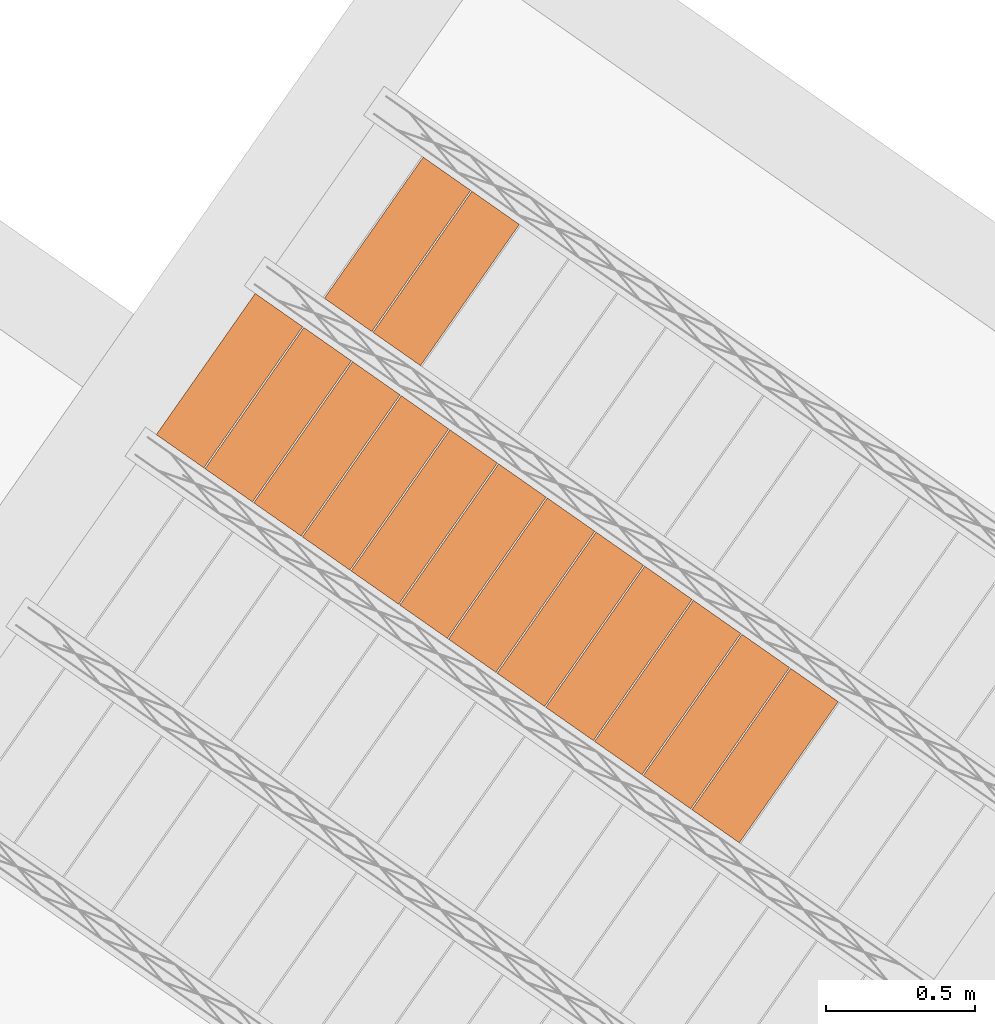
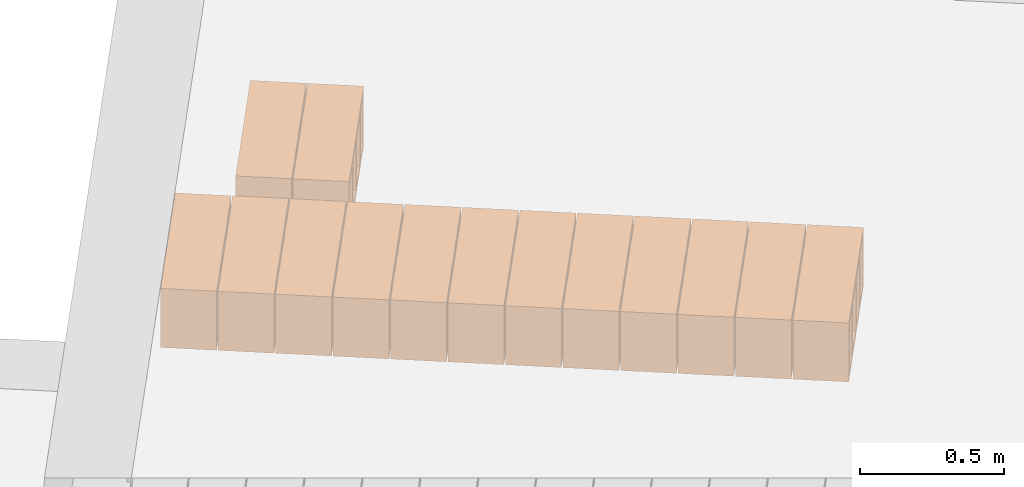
# One storey, part 44 of 46: 14 proxies.
"""IFC2X3 building model written with IfcOpenShell, lengths in metres."""

from ifc_helpers import new_model, entity, si_unit, converted_unit, derived_unit, direction, frame, origin, place, context, subcontext, project, spatial, polyline, outline, extrude, type_object, element, save


model = new_model("IFC2X3")

# Units and contexts
model_context = context("Model", 3, precision=1e-05, world=origin(), true_north=direction((6.123031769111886e-17, 1.0)))
body_context = subcontext(model_context, "Body", "Model", "MODEL_VIEW")
ifc_project = project(units=[si_unit("LENGTHUNIT", "METRE"), si_unit("AREAUNIT", "SQUARE_METRE"), si_unit("VOLUMEUNIT", "CUBIC_METRE"), converted_unit("PLANEANGLEUNIT", "DEGREE", entity("IfcPlaneAngleMeasure", 0.017453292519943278), si_unit("PLANEANGLEUNIT", "RADIAN"), dimensions=[0, 0, 0, 0, 0, 0, 0]), si_unit("MASSUNIT", "GRAM", prefix="KILO"), derived_unit("MASSDENSITYUNIT", [(si_unit("MASSUNIT", "GRAM", prefix="KILO"), 1), (si_unit("LENGTHUNIT", "METRE"), -3)]), derived_unit("IONCONCENTRATIONUNIT", [(si_unit("MASSUNIT", "GRAM", prefix="KILO"), 1), (si_unit("LENGTHUNIT", "METRE"), -3)]), derived_unit("MOMENTOFINERTIAUNIT", [(si_unit("LENGTHUNIT", "METRE"), 4)]), si_unit("TIMEUNIT", "SECOND"), si_unit("FREQUENCYUNIT", "HERTZ"), si_unit("THERMODYNAMICTEMPERATUREUNIT", "DEGREE_CELSIUS"), derived_unit("THERMALTRANSMITTANCEUNIT", [(si_unit("MASSUNIT", "GRAM", prefix="KILO"), 1), (si_unit("THERMODYNAMICTEMPERATUREUNIT", "KELVIN"), -1), (si_unit("TIMEUNIT", "SECOND"), -3)]), derived_unit("THERMALCONDUCTANCEUNIT", [(si_unit("MASSUNIT", "GRAM", prefix="KILO"), 1), (si_unit("THERMODYNAMICTEMPERATUREUNIT", "KELVIN"), -1), (si_unit("TIMEUNIT", "SECOND"), -3), (si_unit("LENGTHUNIT", "METRE"), 1)]), derived_unit("VOLUMETRICFLOWRATEUNIT", [(si_unit("LENGTHUNIT", "METRE", prefix="DECI"), 3), (si_unit("TIMEUNIT", "SECOND"), -1)]), derived_unit("MASSFLOWRATEUNIT", [(si_unit("MASSUNIT", "GRAM", prefix="KILO"), 1), (si_unit("TIMEUNIT", "SECOND"), -1)]), derived_unit("ROTATIONALFREQUENCYUNIT", [(si_unit("TIMEUNIT", "SECOND"), -1)]), si_unit("ELECTRICCURRENTUNIT", "AMPERE"), si_unit("ELECTRICVOLTAGEUNIT", "VOLT"), si_unit("POWERUNIT", "WATT"), si_unit("FORCEUNIT", "NEWTON", prefix="KILO"), si_unit("ILLUMINANCEUNIT", "LUX"), si_unit("LUMINOUSFLUXUNIT", "LUMEN"), si_unit("LUMINOUSINTENSITYUNIT", "CANDELA"), si_unit("ENERGYUNIT", "JOULE"), derived_unit("USERDEFINED", [(si_unit("MASSUNIT", "GRAM", prefix="KILO"), -1), (si_unit("LENGTHUNIT", "METRE"), -2), (si_unit("TIMEUNIT", "SECOND"), 3), (si_unit("LUMINOUSFLUXUNIT", "LUMEN"), 1)]), derived_unit("USERDEFINED", [(si_unit("MASSUNIT", "GRAM", prefix="KILO"), 1), (si_unit("TIMEUNIT", "SECOND"), -3), (si_unit("LENGTHUNIT", "METRE"), 3), (si_unit("ELECTRICCURRENTUNIT", "AMPERE"), -2)]), derived_unit("SOUNDPOWERUNIT", [(si_unit("MASSUNIT", "GRAM", prefix="KILO"), 1), (si_unit("TIMEUNIT", "SECOND"), -3), (si_unit("LENGTHUNIT", "METRE"), 2)]), derived_unit("SOUNDPRESSUREUNIT", [(si_unit("MASSUNIT", "GRAM", prefix="KILO"), 1), (si_unit("LENGTHUNIT", "METRE"), -1), (si_unit("TIMEUNIT", "SECOND"), -2)]), derived_unit("LINEARVELOCITYUNIT", [(si_unit("LENGTHUNIT", "METRE"), 1), (si_unit("TIMEUNIT", "SECOND"), -1)]), si_unit("PRESSUREUNIT", "PASCAL"), derived_unit("USERDEFINED", [(si_unit("MASSUNIT", "GRAM", prefix="KILO"), 1), (si_unit("LENGTHUNIT", "METRE"), -2), (si_unit("TIMEUNIT", "SECOND"), -2)]), derived_unit("LINEARFORCEUNIT", [(si_unit("MASSUNIT", "GRAM", prefix="KILO"), 1), (si_unit("TIMEUNIT", "SECOND"), -2)]), derived_unit("PLANARFORCEUNIT", [(si_unit("MASSUNIT", "GRAM", prefix="KILO"), 1), (si_unit("LENGTHUNIT", "METRE"), -1), (si_unit("TIMEUNIT", "SECOND"), -2)]), derived_unit("SPECIFICHEATCAPACITYUNIT", [(si_unit("THERMODYNAMICTEMPERATUREUNIT", "KELVIN"), -1), (si_unit("LENGTHUNIT", "METRE"), 2), (si_unit("TIMEUNIT", "SECOND"), -2)]), derived_unit("HEATFLUXDENSITYUNIT", [(si_unit("MASSUNIT", "GRAM", prefix="KILO"), 1), (si_unit("TIMEUNIT", "SECOND"), -3)]), derived_unit("HEATINGVALUEUNIT", [(si_unit("LENGTHUNIT", "METRE"), 2), (si_unit("TIMEUNIT", "SECOND"), -2)]), derived_unit("VAPORPERMEABILITYUNIT", [(si_unit("LENGTHUNIT", "METRE"), -1), (si_unit("TIMEUNIT", "SECOND"), 1)]), derived_unit("DYNAMICVISCOSITYUNIT", [(si_unit("MASSUNIT", "GRAM", prefix="KILO"), 1), (si_unit("TIMEUNIT", "SECOND"), -1), (si_unit("LENGTHUNIT", "METRE"), -1)]), derived_unit("THERMALEXPANSIONCOEFFICIENTUNIT", [(si_unit("THERMODYNAMICTEMPERATUREUNIT", "KELVIN"), -1)]), derived_unit("MODULUSOFELASTICITYUNIT", [(si_unit("MASSUNIT", "GRAM", prefix="KILO"), 1), (si_unit("LENGTHUNIT", "METRE"), -1), (si_unit("TIMEUNIT", "SECOND"), -2)]), derived_unit("ISOTHERMALMOISTURECAPACITYUNIT", [(si_unit("MASSUNIT", "GRAM", prefix="KILO"), -1), (si_unit("LENGTHUNIT", "METRE"), 3)]), derived_unit("MOISTUREDIFFUSIVITYUNIT", [(si_unit("TIMEUNIT", "SECOND"), -1), (si_unit("LENGTHUNIT", "METRE"), 2)]), derived_unit("MASSPERLENGTHUNIT", [(si_unit("MASSUNIT", "GRAM", prefix="KILO"), 1), (si_unit("LENGTHUNIT", "METRE"), -1)]), derived_unit("THERMALRESISTANCEUNIT", [(si_unit("MASSUNIT", "GRAM", prefix="KILO"), -1), (si_unit("TIMEUNIT", "SECOND"), 3), (si_unit("THERMODYNAMICTEMPERATUREUNIT", "KELVIN"), 1)]), derived_unit("ACCELERATIONUNIT", [(si_unit("LENGTHUNIT", "METRE"), 1), (si_unit("TIMEUNIT", "SECOND"), -2)]), derived_unit("ANGULARVELOCITYUNIT", [(si_unit("TIMEUNIT", "SECOND"), -1), (si_unit("PLANEANGLEUNIT", "RADIAN"), 1)]), derived_unit("LINEARSTIFFNESSUNIT", [(si_unit("MASSUNIT", "GRAM", prefix="KILO"), 1), (si_unit("TIMEUNIT", "SECOND"), -2)]), derived_unit("WARPINGCONSTANTUNIT", [(si_unit("LENGTHUNIT", "METRE"), 6)]), derived_unit("LINEARMOMENTUNIT", [(si_unit("MASSUNIT", "GRAM", prefix="KILO"), 1), (si_unit("LENGTHUNIT", "METRE"), 1), (si_unit("TIMEUNIT", "SECOND"), -2)]), derived_unit("TORQUEUNIT", [(si_unit("MASSUNIT", "GRAM", prefix="KILO"), 1), (si_unit("LENGTHUNIT", "METRE"), 2), (si_unit("TIMEUNIT", "SECOND"), -2)])], contexts=[model_context])

# Site, building, storey
site_placement = place(None, origin())
site = spatial("IfcSite", under=ifc_project, at=site_placement, Name="Default", CompositionType="ELEMENT")
building_placement = place(site_placement, origin())
building = spatial("IfcBuilding", under=site, at=building_placement, CompositionType="ELEMENT")
storey_placement = place(building_placement, frame((0.0, 0.0, 99.52000000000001)))
storey = spatial("IfcBuildingStorey", under=building, at=storey_placement, Name="F1", CompositionType="ELEMENT", Elevation=99.52000000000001)

# Proxies
building_element_proxy_type_1 = type_object("IfcBuildingElementProxyType", Name="Bovedilla 3-5 (Paño 3)", PredefinedType="USERDEFINED")
proxy_1_placement = place(storey_placement, origin())
element("IfcBuildingElementProxy", 1, at=proxy_1_placement, inside=storey, type_object=building_element_proxy_type_1, Name="Bovedilla 3-5 (Paño 3)", ObjectType="FORM", context=body_context, shape_type="SweptSolid", body=[
    extrude(outline(polyline([(-0.28999999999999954, -0.12500000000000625), (0.29, -0.12500000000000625), (0.29, 0.12500000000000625), (-0.28999999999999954, 0.12500000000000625), (-0.28999999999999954, -0.12500000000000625)]), holes=[polyline([(0.27000000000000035, -0.10499999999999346), (0.1550000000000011, -0.10499999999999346), (0.1550000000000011, 0.10499999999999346), (0.27000000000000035, 0.10499999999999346), (0.27000000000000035, 0.042499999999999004), (0.27000000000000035, -0.10499999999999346)]), polyline([(0.009999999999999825, -0.10499999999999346), (0.009999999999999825, 0.10499999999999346), (0.1349999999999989, 0.10499999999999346), (0.1349999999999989, -0.10499999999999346), (0.009999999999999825, -0.10499999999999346)]), polyline([(-0.1349999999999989, 0.10499999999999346), (-0.009999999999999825, 0.10499999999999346), (-0.009999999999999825, -0.10499999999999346), (-0.1349999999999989, -0.10499999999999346), (-0.1349999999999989, 0.10499999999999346)]), polyline([(-0.26999999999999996, -0.10499999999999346), (-0.26999999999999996, 0.042499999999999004), (-0.26999999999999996, 0.10499999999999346), (-0.15500000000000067, 0.10499999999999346), (-0.15500000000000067, -0.10499999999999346), (-0.26999999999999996, -0.10499999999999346)])]), frame((13.3207269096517, 4.956133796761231, 0.3249999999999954), z_axis=(0.8191520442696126, -0.5735764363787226, 0.0), x_axis=(-0.5735764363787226, -0.8191520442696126, 0.0)), (0.0, 0.0, 1.0), 0.1950000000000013),
])
building_element_proxy_type_2 = type_object("IfcBuildingElementProxyType", Name="Bovedilla 3-6 (Paño 3)", PredefinedType="USERDEFINED")
proxy_2_placement = place(storey_placement, origin())
element("IfcBuildingElementProxy", 2, at=proxy_2_placement, inside=storey, type_object=building_element_proxy_type_2, Name="Bovedilla 3-6 (Paño 3)", ObjectType="FORM", context=body_context, shape_type="SweptSolid", body=[
    extrude(outline(polyline([(-0.28999999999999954, -0.12500000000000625), (0.29, -0.12500000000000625), (0.29, 0.12500000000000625), (-0.28999999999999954, 0.12500000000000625), (-0.28999999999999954, -0.12500000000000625)]), holes=[polyline([(0.27000000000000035, -0.10499999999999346), (0.15500000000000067, -0.10499999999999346), (0.15500000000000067, 0.10499999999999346), (0.27000000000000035, 0.10499999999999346), (0.27000000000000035, 0.042499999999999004), (0.27000000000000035, -0.10499999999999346)]), polyline([(0.009999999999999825, -0.10499999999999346), (0.009999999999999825, 0.10499999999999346), (0.1349999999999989, 0.10499999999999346), (0.1349999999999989, -0.10499999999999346), (0.009999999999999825, -0.10499999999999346)]), polyline([(-0.1349999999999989, 0.10499999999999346), (-0.009999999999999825, 0.10499999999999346), (-0.009999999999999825, -0.10499999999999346), (-0.1349999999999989, -0.10499999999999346), (-0.1349999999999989, 0.10499999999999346)]), polyline([(-0.26999999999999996, -0.10499999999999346), (-0.26999999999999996, 0.042499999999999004), (-0.26999999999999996, 0.10499999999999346), (-0.15500000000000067, 0.10499999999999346), (-0.15500000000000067, -0.10499999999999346), (-0.26999999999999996, -0.10499999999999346)])]), frame((13.156896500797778, 5.070849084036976, 0.3249999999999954), z_axis=(0.8191520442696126, -0.5735764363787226, 0.0), x_axis=(-0.5735764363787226, -0.8191520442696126, 0.0)), (0.0, 0.0, 1.0), 0.1950000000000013),
])
building_element_proxy_type_3 = type_object("IfcBuildingElementProxyType", Name="Bovedilla 3-7 (Paño 3)", PredefinedType="USERDEFINED")
proxy_3_placement = place(storey_placement, origin())
element("IfcBuildingElementProxy", 3, at=proxy_3_placement, inside=storey, type_object=building_element_proxy_type_3, Name="Bovedilla 3-7 (Paño 3)", ObjectType="FORM", context=body_context, shape_type="SweptSolid", body=[
    extrude(outline(polyline([(-0.28999999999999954, -0.12500000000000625), (0.28999999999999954, -0.12500000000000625), (0.28999999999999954, 0.12500000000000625), (-0.28999999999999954, 0.12500000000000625), (-0.28999999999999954, -0.12500000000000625)]), holes=[polyline([(0.26999999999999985, -0.10499999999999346), (0.15500000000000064, -0.10499999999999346), (0.15500000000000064, 0.10499999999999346), (0.26999999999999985, 0.10499999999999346), (0.26999999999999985, 0.042499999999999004), (0.26999999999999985, -0.10499999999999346)]), polyline([(0.009999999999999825, -0.10499999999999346), (0.009999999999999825, 0.10499999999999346), (0.13499999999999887, 0.10499999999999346), (0.13499999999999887, -0.10499999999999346), (0.009999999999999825, -0.10499999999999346)]), polyline([(-0.13499999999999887, 0.10499999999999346), (-0.009999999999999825, 0.10499999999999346), (-0.009999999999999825, -0.10499999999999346), (-0.13499999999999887, -0.10499999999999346), (-0.13499999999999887, 0.10499999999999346)]), polyline([(-0.26999999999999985, -0.10499999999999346), (-0.26999999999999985, 0.042499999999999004), (-0.26999999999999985, 0.10499999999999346), (-0.15500000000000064, 0.10499999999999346), (-0.15500000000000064, -0.10499999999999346), (-0.26999999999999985, -0.10499999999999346)])]), frame((12.993066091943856, 5.18556437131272, 0.3249999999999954), z_axis=(0.8191520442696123, -0.5735764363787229, 0.0), x_axis=(-0.5735764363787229, -0.8191520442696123, 0.0)), (0.0, 0.0, 1.0), 0.19499999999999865),
])
building_element_proxy_type_4 = type_object("IfcBuildingElementProxyType", Name="Bovedilla 3-8 (Paño 3)", PredefinedType="USERDEFINED")
proxy_4_placement = place(storey_placement, origin())
element("IfcBuildingElementProxy", 4, at=proxy_4_placement, inside=storey, type_object=building_element_proxy_type_4, Name="Bovedilla 3-8 (Paño 3)", ObjectType="FORM", context=body_context, shape_type="SweptSolid", body=[
    extrude(outline(polyline([(-0.28999999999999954, -0.12500000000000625), (0.28999999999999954, -0.12500000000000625), (0.28999999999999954, 0.12500000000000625), (-0.28999999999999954, 0.12500000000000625), (-0.28999999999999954, -0.12500000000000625)]), holes=[polyline([(0.26999999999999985, -0.10499999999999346), (0.15500000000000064, -0.10499999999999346), (0.15500000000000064, 0.10499999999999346), (0.26999999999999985, 0.10499999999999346), (0.26999999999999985, 0.042499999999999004), (0.26999999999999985, -0.10499999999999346)]), polyline([(0.009999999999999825, -0.10499999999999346), (0.009999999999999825, 0.10499999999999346), (0.13499999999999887, 0.10499999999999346), (0.13499999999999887, -0.10499999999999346), (0.009999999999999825, -0.10499999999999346)]), polyline([(-0.13499999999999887, 0.10499999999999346), (-0.009999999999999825, 0.10499999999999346), (-0.009999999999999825, -0.10499999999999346), (-0.13499999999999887, -0.10499999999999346), (-0.13499999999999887, 0.10499999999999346)]), polyline([(-0.26999999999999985, -0.10499999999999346), (-0.26999999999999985, 0.042499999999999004), (-0.26999999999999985, 0.10499999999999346), (-0.15500000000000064, 0.10499999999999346), (-0.15500000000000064, -0.10499999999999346), (-0.26999999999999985, -0.10499999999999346)])]), frame((12.829235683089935, 5.300279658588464, 0.3249999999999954), z_axis=(0.8191520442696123, -0.5735764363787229, 0.0), x_axis=(-0.5735764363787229, -0.8191520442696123, 0.0)), (0.0, 0.0, 1.0), 0.19499999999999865),
])
building_element_proxy_type_5 = type_object("IfcBuildingElementProxyType", Name="Bovedilla 3-9 (Paño 3)", PredefinedType="USERDEFINED")
proxy_5_placement = place(storey_placement, origin())
element("IfcBuildingElementProxy", 5, at=proxy_5_placement, inside=storey, type_object=building_element_proxy_type_5, Name="Bovedilla 3-9 (Paño 3)", ObjectType="FORM", context=body_context, shape_type="SweptSolid", body=[
    extrude(outline(polyline([(-0.28999999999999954, -0.12500000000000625), (0.28999999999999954, -0.12500000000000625), (0.28999999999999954, 0.12500000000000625), (-0.28999999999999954, 0.12500000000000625), (-0.28999999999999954, -0.12500000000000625)]), holes=[polyline([(0.26999999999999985, -0.10499999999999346), (0.15500000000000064, -0.10499999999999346), (0.15500000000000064, 0.10499999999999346), (0.26999999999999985, 0.10499999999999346), (0.26999999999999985, 0.042499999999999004), (0.26999999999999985, -0.10499999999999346)]), polyline([(0.009999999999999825, -0.10499999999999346), (0.009999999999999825, 0.10499999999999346), (0.13499999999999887, 0.10499999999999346), (0.13499999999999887, -0.10499999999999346), (0.009999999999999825, -0.10499999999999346)]), polyline([(-0.13499999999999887, 0.10499999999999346), (-0.009999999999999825, 0.10499999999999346), (-0.009999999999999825, -0.10499999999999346), (-0.13499999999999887, -0.10499999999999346), (-0.13499999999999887, 0.10499999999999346)]), polyline([(-0.26999999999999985, -0.10499999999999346), (-0.26999999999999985, 0.042499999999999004), (-0.26999999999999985, 0.10499999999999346), (-0.15500000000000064, 0.10499999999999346), (-0.15500000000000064, -0.10499999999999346), (-0.26999999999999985, -0.10499999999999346)])]), frame((12.66540527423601, 5.414994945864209, 0.3249999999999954), z_axis=(0.8191520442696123, -0.5735764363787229, 0.0), x_axis=(-0.5735764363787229, -0.8191520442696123, 0.0)), (0.0, 0.0, 1.0), 0.1950000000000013),
])
building_element_proxy_type_6 = type_object("IfcBuildingElementProxyType", Name="Bovedilla 3-10 (Paño 3)", PredefinedType="USERDEFINED")
proxy_6_placement = place(storey_placement, origin())
element("IfcBuildingElementProxy", 6, at=proxy_6_placement, inside=storey, type_object=building_element_proxy_type_6, Name="Bovedilla 3-10 (Paño 3)", ObjectType="FORM", context=body_context, shape_type="SweptSolid", body=[
    extrude(outline(polyline([(-0.28999999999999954, -0.12500000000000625), (0.28999999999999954, -0.12500000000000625), (0.28999999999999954, 0.12500000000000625), (-0.28999999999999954, 0.12500000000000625), (-0.28999999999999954, -0.12500000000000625)]), holes=[polyline([(0.26999999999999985, -0.10499999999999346), (0.15500000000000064, -0.10499999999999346), (0.15500000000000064, 0.10499999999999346), (0.26999999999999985, 0.10499999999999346), (0.26999999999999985, 0.042499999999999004), (0.26999999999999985, -0.10499999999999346)]), polyline([(0.009999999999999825, -0.10499999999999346), (0.009999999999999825, 0.10499999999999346), (0.13499999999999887, 0.10499999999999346), (0.13499999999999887, -0.10499999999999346), (0.009999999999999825, -0.10499999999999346)]), polyline([(-0.13499999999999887, 0.10499999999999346), (-0.009999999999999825, 0.10499999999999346), (-0.009999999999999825, -0.10499999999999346), (-0.13499999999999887, -0.10499999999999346), (-0.13499999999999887, 0.10499999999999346)]), polyline([(-0.26999999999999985, -0.10499999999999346), (-0.26999999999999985, 0.042499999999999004), (-0.26999999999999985, 0.10499999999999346), (-0.15500000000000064, 0.10499999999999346), (-0.15500000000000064, -0.10499999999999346), (-0.26999999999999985, -0.10499999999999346)])]), frame((12.501574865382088, 5.529710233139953, 0.3249999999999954), z_axis=(0.8191520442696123, -0.5735764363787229, 0.0), x_axis=(-0.5735764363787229, -0.8191520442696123, 0.0)), (0.0, 0.0, 1.0), 0.1950000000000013),
])
building_element_proxy_type_7 = type_object("IfcBuildingElementProxyType", Name="Bovedilla 3-11 (Paño 3)", PredefinedType="USERDEFINED")
proxy_7_placement = place(storey_placement, origin())
element("IfcBuildingElementProxy", 7, at=proxy_7_placement, inside=storey, type_object=building_element_proxy_type_7, Name="Bovedilla 3-11 (Paño 3)", ObjectType="FORM", context=body_context, shape_type="SweptSolid", body=[
    extrude(outline(polyline([(-0.28999999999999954, -0.12500000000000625), (0.28999999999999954, -0.12500000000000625), (0.28999999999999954, 0.12500000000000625), (-0.28999999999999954, 0.12500000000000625), (-0.28999999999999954, -0.12500000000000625)]), holes=[polyline([(0.26999999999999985, -0.10499999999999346), (0.15500000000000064, -0.10499999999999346), (0.15500000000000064, 0.10499999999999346), (0.26999999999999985, 0.10499999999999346), (0.26999999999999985, 0.042499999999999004), (0.26999999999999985, -0.10499999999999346)]), polyline([(0.009999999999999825, -0.10499999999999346), (0.009999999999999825, 0.10499999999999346), (0.13499999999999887, 0.10499999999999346), (0.13499999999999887, -0.10499999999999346), (0.009999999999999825, -0.10499999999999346)]), polyline([(-0.13499999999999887, 0.10499999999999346), (-0.009999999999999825, 0.10499999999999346), (-0.009999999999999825, -0.10499999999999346), (-0.13499999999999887, -0.10499999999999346), (-0.13499999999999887, 0.10499999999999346)]), polyline([(-0.26999999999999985, -0.10499999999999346), (-0.26999999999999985, 0.042499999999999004), (-0.26999999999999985, 0.10499999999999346), (-0.15500000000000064, 0.10499999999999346), (-0.15500000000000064, -0.10499999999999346), (-0.26999999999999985, -0.10499999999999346)])]), frame((12.337744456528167, 5.644425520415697, 0.3249999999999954), z_axis=(0.8191520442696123, -0.5735764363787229, 0.0), x_axis=(-0.5735764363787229, -0.8191520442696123, 0.0)), (0.0, 0.0, 1.0), 0.19499999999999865),
])
building_element_proxy_type_8 = type_object("IfcBuildingElementProxyType", Name="Bovedilla 3-12 (Paño 3)", PredefinedType="USERDEFINED")
proxy_8_placement = place(storey_placement, origin())
element("IfcBuildingElementProxy", 8, at=proxy_8_placement, inside=storey, type_object=building_element_proxy_type_8, Name="Bovedilla 3-12 (Paño 3)", ObjectType="FORM", context=body_context, shape_type="SweptSolid", body=[
    extrude(outline(polyline([(-0.28999999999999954, -0.12500000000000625), (0.28999999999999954, -0.12500000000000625), (0.28999999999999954, 0.12500000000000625), (-0.28999999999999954, 0.12500000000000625), (-0.28999999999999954, -0.12500000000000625)]), holes=[polyline([(0.26999999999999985, -0.10499999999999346), (0.15500000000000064, -0.10499999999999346), (0.15500000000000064, 0.10499999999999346), (0.26999999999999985, 0.10499999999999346), (0.26999999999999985, 0.042499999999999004), (0.26999999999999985, -0.10499999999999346)]), polyline([(0.009999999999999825, -0.10499999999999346), (0.009999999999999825, 0.10499999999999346), (0.13499999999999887, 0.10499999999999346), (0.13499999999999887, -0.10499999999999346), (0.009999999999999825, -0.10499999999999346)]), polyline([(-0.13499999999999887, 0.10499999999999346), (-0.009999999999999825, 0.10499999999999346), (-0.009999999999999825, -0.10499999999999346), (-0.13499999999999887, -0.10499999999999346), (-0.13499999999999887, 0.10499999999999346)]), polyline([(-0.26999999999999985, -0.10499999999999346), (-0.26999999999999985, 0.042499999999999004), (-0.26999999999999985, 0.10499999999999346), (-0.15500000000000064, 0.10499999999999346), (-0.15500000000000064, -0.10499999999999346), (-0.26999999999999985, -0.10499999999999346)])]), frame((12.173914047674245, 5.759140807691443, 0.3249999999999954), z_axis=(0.8191520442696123, -0.5735764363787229, 0.0), x_axis=(-0.5735764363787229, -0.8191520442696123, 0.0)), (0.0, 0.0, 1.0), 0.19499999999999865),
])
building_element_proxy_type_9 = type_object("IfcBuildingElementProxyType", Name="Bovedilla 3-13 (Paño 3)", PredefinedType="USERDEFINED")
proxy_9_placement = place(storey_placement, origin())
element("IfcBuildingElementProxy", 9, at=proxy_9_placement, inside=storey, type_object=building_element_proxy_type_9, Name="Bovedilla 3-13 (Paño 3)", ObjectType="FORM", context=body_context, shape_type="SweptSolid", body=[
    extrude(outline(polyline([(-0.28999999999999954, -0.12500000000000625), (0.28999999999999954, -0.12500000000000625), (0.28999999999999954, 0.12500000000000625), (-0.28999999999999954, 0.12500000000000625), (-0.28999999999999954, -0.12500000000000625)]), holes=[polyline([(0.26999999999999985, -0.10499999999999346), (0.15500000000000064, -0.10499999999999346), (0.15500000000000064, 0.10499999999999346), (0.26999999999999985, 0.10499999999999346), (0.26999999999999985, 0.042499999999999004), (0.26999999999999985, -0.10499999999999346)]), polyline([(0.009999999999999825, -0.10499999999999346), (0.009999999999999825, 0.10499999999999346), (0.13499999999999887, 0.10499999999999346), (0.13499999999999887, -0.10499999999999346), (0.009999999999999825, -0.10499999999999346)]), polyline([(-0.13499999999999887, 0.10499999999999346), (-0.009999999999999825, 0.10499999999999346), (-0.009999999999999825, -0.10499999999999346), (-0.13499999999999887, -0.10499999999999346), (-0.13499999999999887, 0.10499999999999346)]), polyline([(-0.26999999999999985, -0.10499999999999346), (-0.26999999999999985, 0.042499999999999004), (-0.26999999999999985, 0.10499999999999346), (-0.15500000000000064, 0.10499999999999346), (-0.15500000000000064, -0.10499999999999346), (-0.26999999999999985, -0.10499999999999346)])]), frame((12.01008363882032, 5.873856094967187, 0.3249999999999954), z_axis=(0.8191520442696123, -0.5735764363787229, 0.0), x_axis=(-0.5735764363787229, -0.8191520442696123, 0.0)), (0.0, 0.0, 1.0), 0.1950000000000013),
])
building_element_proxy_type_10 = type_object("IfcBuildingElementProxyType", Name="Bovedilla 3-14 (Paño 3)", PredefinedType="USERDEFINED")
proxy_10_placement = place(storey_placement, origin())
element("IfcBuildingElementProxy", 10, at=proxy_10_placement, inside=storey, type_object=building_element_proxy_type_10, Name="Bovedilla 3-14 (Paño 3)", ObjectType="FORM", context=body_context, shape_type="SweptSolid", body=[
    extrude(outline(polyline([(-0.28999999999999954, -0.12500000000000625), (0.28999999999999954, -0.12500000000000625), (0.28999999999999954, 0.12500000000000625), (-0.28999999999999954, 0.12500000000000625), (-0.28999999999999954, -0.12500000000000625)]), holes=[polyline([(0.26999999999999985, -0.10499999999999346), (0.15500000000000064, -0.10499999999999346), (0.15500000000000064, 0.10499999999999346), (0.26999999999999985, 0.10499999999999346), (0.26999999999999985, 0.042499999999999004), (0.26999999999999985, -0.10499999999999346)]), polyline([(0.009999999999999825, -0.10499999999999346), (0.009999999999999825, 0.10499999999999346), (0.13499999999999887, 0.10499999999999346), (0.13499999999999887, -0.10499999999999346), (0.009999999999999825, -0.10499999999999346)]), polyline([(-0.13499999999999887, 0.10499999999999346), (-0.009999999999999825, 0.10499999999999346), (-0.009999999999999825, -0.10499999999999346), (-0.13499999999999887, -0.10499999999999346), (-0.13499999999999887, 0.10499999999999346)]), polyline([(-0.26999999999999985, -0.10499999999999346), (-0.26999999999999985, 0.042499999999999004), (-0.26999999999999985, 0.10499999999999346), (-0.15500000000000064, 0.10499999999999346), (-0.15500000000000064, -0.10499999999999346), (-0.26999999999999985, -0.10499999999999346)])]), frame((11.846253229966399, 5.988571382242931, 0.3249999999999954), z_axis=(0.8191520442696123, -0.5735764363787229, 0.0), x_axis=(-0.5735764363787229, -0.8191520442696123, 0.0)), (0.0, 0.0, 1.0), 0.1950000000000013),
])
building_element_proxy_type_11 = type_object("IfcBuildingElementProxyType", Name="Bovedilla 3-15 (Paño 3)", PredefinedType="USERDEFINED")
proxy_11_placement = place(storey_placement, origin())
element("IfcBuildingElementProxy", 11, at=proxy_11_placement, inside=storey, type_object=building_element_proxy_type_11, Name="Bovedilla 3-15 (Paño 3)", ObjectType="FORM", context=body_context, shape_type="SweptSolid", body=[
    extrude(outline(polyline([(-0.28999999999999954, -0.12500000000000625), (0.28999999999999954, -0.12500000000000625), (0.28999999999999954, 0.12500000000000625), (-0.28999999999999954, 0.12500000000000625), (-0.28999999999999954, -0.12500000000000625)]), holes=[polyline([(0.26999999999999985, -0.10499999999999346), (0.15500000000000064, -0.10499999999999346), (0.15500000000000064, 0.10499999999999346), (0.26999999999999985, 0.10499999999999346), (0.26999999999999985, 0.042499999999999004), (0.26999999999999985, -0.10499999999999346)]), polyline([(0.009999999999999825, -0.10499999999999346), (0.009999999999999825, 0.10499999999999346), (0.13499999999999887, 0.10499999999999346), (0.13499999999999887, -0.10499999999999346), (0.009999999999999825, -0.10499999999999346)]), polyline([(-0.13499999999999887, 0.10499999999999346), (-0.009999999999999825, 0.10499999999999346), (-0.009999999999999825, -0.10499999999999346), (-0.13499999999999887, -0.10499999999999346), (-0.13499999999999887, 0.10499999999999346)]), polyline([(-0.26999999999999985, -0.10499999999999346), (-0.26999999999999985, 0.042499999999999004), (-0.26999999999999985, 0.10499999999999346), (-0.15500000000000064, 0.10499999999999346), (-0.15500000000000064, -0.10499999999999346), (-0.26999999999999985, -0.10499999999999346)])]), frame((11.682422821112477, 6.103286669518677, 0.3249999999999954), z_axis=(0.8191520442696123, -0.5735764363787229, 0.0), x_axis=(-0.5735764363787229, -0.8191520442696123, 0.0)), (0.0, 0.0, 1.0), 0.19499999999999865),
])
building_element_proxy_type_12 = type_object("IfcBuildingElementProxyType", Name="Bovedilla 3-16 (Paño 3)", PredefinedType="USERDEFINED")
proxy_12_placement = place(storey_placement, origin())
element("IfcBuildingElementProxy", 12, at=proxy_12_placement, inside=storey, type_object=building_element_proxy_type_12, Name="Bovedilla 3-16 (Paño 3)", ObjectType="FORM", context=body_context, shape_type="SweptSolid", body=[
    extrude(outline(polyline([(-0.28999999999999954, -0.12500000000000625), (0.28999999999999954, -0.12500000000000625), (0.28999999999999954, 0.12500000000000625), (-0.28999999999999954, 0.12500000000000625), (-0.28999999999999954, -0.12500000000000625)]), holes=[polyline([(0.26999999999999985, -0.10499999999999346), (0.15500000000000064, -0.10499999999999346), (0.15500000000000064, 0.10499999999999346), (0.26999999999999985, 0.10499999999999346), (0.26999999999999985, 0.042499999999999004), (0.26999999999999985, -0.10499999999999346)]), polyline([(0.009999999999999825, -0.10499999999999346), (0.009999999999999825, 0.10499999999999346), (0.13499999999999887, 0.10499999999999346), (0.13499999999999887, -0.10499999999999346), (0.009999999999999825, -0.10499999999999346)]), polyline([(-0.13499999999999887, 0.10499999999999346), (-0.009999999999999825, 0.10499999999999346), (-0.009999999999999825, -0.10499999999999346), (-0.13499999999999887, -0.10499999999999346), (-0.13499999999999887, 0.10499999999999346)]), polyline([(-0.26999999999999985, -0.10499999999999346), (-0.26999999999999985, 0.042499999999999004), (-0.26999999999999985, 0.10499999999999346), (-0.15500000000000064, 0.10499999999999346), (-0.15500000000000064, -0.10499999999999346), (-0.26999999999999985, -0.10499999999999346)])]), frame((11.518592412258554, 6.218001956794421, 0.3249999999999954), z_axis=(0.8191520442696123, -0.5735764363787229, 0.0), x_axis=(-0.5735764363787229, -0.8191520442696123, 0.0)), (0.0, 0.0, 1.0), 0.19499999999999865),
])
building_element_proxy_type_13 = type_object("IfcBuildingElementProxyType", Name="Bovedilla 4-14 (Paño 3)", PredefinedType="USERDEFINED")
proxy_13_placement = place(storey_placement, origin())
element("IfcBuildingElementProxy", 13, at=proxy_13_placement, inside=storey, type_object=building_element_proxy_type_13, Name="Bovedilla 4-14 (Paño 3)", ObjectType="FORM", context=body_context, shape_type="SweptSolid", body=[
    extrude(outline(polyline([(-0.28999999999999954, -0.12500000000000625), (0.28999999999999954, -0.12500000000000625), (0.28999999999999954, 0.12500000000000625), (-0.28999999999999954, 0.12500000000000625), (-0.28999999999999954, -0.12500000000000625)]), holes=[polyline([(0.26999999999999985, -0.10499999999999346), (0.15500000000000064, -0.10499999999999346), (0.15500000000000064, 0.10499999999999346), (0.26999999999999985, 0.10499999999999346), (0.26999999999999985, 0.042499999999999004), (0.26999999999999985, -0.10499999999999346)]), polyline([(0.009999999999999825, -0.10499999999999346), (0.009999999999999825, 0.10499999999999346), (0.13499999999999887, 0.10499999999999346), (0.13499999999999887, -0.10499999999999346), (0.009999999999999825, -0.10499999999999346)]), polyline([(-0.13499999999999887, 0.10499999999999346), (-0.009999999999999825, 0.10499999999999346), (-0.009999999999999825, -0.10499999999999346), (-0.13499999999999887, -0.10499999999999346), (-0.13499999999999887, 0.10499999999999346)]), polyline([(-0.26999999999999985, -0.10499999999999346), (-0.26999999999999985, 0.042499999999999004), (-0.26999999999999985, 0.10499999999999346), (-0.15500000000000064, 0.10499999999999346), (-0.15500000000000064, -0.10499999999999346), (-0.26999999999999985, -0.10499999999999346)])]), frame((12.247756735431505, 6.5619778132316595, 0.3249999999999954), z_axis=(0.8191520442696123, -0.5735764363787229, 0.0), x_axis=(-0.5735764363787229, -0.8191520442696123, 0.0)), (0.0, 0.0, 1.0), 0.1950000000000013),
])
building_element_proxy_type_14 = type_object("IfcBuildingElementProxyType", Name="Bovedilla 4-15 (Paño 3)", PredefinedType="USERDEFINED")
proxy_14_placement = place(storey_placement, origin())
element("IfcBuildingElementProxy", 14, at=proxy_14_placement, inside=storey, type_object=building_element_proxy_type_14, Name="Bovedilla 4-15 (Paño 3)", ObjectType="FORM", context=body_context, shape_type="SweptSolid", body=[
    extrude(outline(polyline([(-0.28999999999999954, -0.12500000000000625), (0.28999999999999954, -0.12500000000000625), (0.28999999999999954, 0.12500000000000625), (-0.28999999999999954, 0.12500000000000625), (-0.28999999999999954, -0.12500000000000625)]), holes=[polyline([(0.26999999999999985, -0.10499999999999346), (0.15500000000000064, -0.10499999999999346), (0.15500000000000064, 0.10499999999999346), (0.26999999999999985, 0.10499999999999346), (0.26999999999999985, 0.042499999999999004), (0.26999999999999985, -0.10499999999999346)]), polyline([(0.009999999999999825, -0.10499999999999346), (0.009999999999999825, 0.10499999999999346), (0.13499999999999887, 0.10499999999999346), (0.13499999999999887, -0.10499999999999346), (0.009999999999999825, -0.10499999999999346)]), polyline([(-0.13499999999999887, 0.10499999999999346), (-0.009999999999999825, 0.10499999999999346), (-0.009999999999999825, -0.10499999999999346), (-0.13499999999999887, -0.10499999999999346), (-0.13499999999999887, 0.10499999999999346)]), polyline([(-0.26999999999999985, -0.10499999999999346), (-0.26999999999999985, 0.042499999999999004), (-0.26999999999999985, 0.10499999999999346), (-0.15500000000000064, 0.10499999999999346), (-0.15500000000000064, -0.10499999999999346), (-0.26999999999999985, -0.10499999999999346)])]), frame((12.083926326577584, 6.676693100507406, 0.3249999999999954), z_axis=(0.8191520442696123, -0.5735764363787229, 0.0), x_axis=(-0.5735764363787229, -0.8191520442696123, 0.0)), (0.0, 0.0, 1.0), 0.19499999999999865),
])

save(model, "model.ifc")
